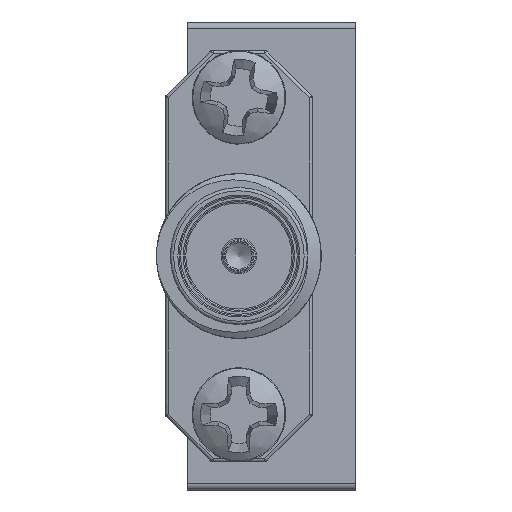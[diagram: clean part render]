
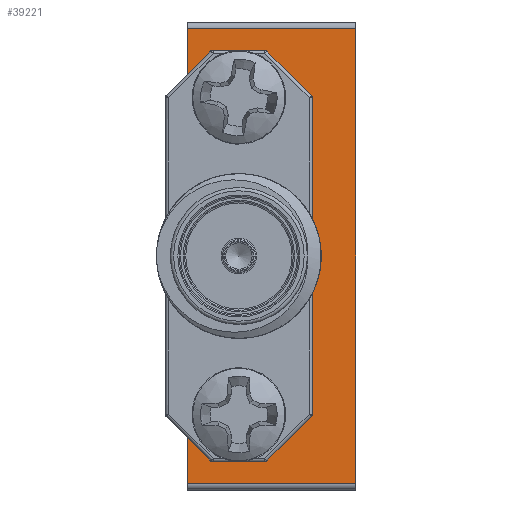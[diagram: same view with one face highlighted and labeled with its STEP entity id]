
A CAD part, left-side view. The second image highlights one B-rep face of the part: STEP entity #39221.
In plain terms, the highlighted planar face has unit normal (-1, 0, 0).
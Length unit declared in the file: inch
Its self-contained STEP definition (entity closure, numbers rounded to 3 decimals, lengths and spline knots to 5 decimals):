
#157 = VERTEX_POINT ( 'NONE', #46705 ) ;
#723 = ORIENTED_EDGE ( 'NONE', *, *, #46774, .F. ) ;
#2115 = LINE ( 'NONE', #30208, #20325 ) ;
#2280 = VERTEX_POINT ( 'NONE', #42597 ) ;
#3144 = FACE_OUTER_BOUND ( 'NONE', #43195, .T. ) ;
#3970 = CARTESIAN_POINT ( 'NONE',  ( 36.42818, 39.80643, 41.74168 ) ) ;
#4634 = ORIENTED_EDGE ( 'NONE', *, *, #39764, .F. ) ;
#6376 = PLANE ( 'NONE',  #11502 ) ;
#6680 = DIRECTION ( 'NONE',  ( 0., 1., 0. ) ) ;
#6729 = EDGE_LOOP ( 'NONE', ( #723 ) ) ;
#7599 = LINE ( 'NONE', #37738, #33080 ) ;
#7965 = EDGE_CURVE ( 'NONE', #14479, #9657, #33408, .T. ) ;
#8901 = DIRECTION ( 'NONE',  ( 0., 0., 1. ) ) ;
#9657 = VERTEX_POINT ( 'NONE', #15429 ) ;
#9781 = EDGE_CURVE ( 'NONE', #22716, #157, #2115, .T. ) ;
#10119 = CARTESIAN_POINT ( 'NONE',  ( 36.42818, 39.55143, 41.74168 ) ) ;
#10651 = CARTESIAN_POINT ( 'NONE',  ( 36.42818, 39.80643, 41.04168 ) ) ;
#10832 = LINE ( 'NONE', #18960, #32460 ) ;
#11077 = DIRECTION ( 'NONE',  ( 0., 1., 0. ) ) ;
#11173 = DIRECTION ( 'NONE',  ( -1., 0., 0. ) ) ;
#11502 = AXIS2_PLACEMENT_3D ( 'NONE', #36521, #17437, #44174 ) ;
#12932 = ORIENTED_EDGE ( 'NONE', *, *, #43673, .T. ) ;
#12937 = CIRCLE ( 'NONE', #43740, 0.0525 ) ;
#13057 = DIRECTION ( 'NONE',  ( 0., 0., 1. ) ) ;
#13617 = CARTESIAN_POINT ( 'NONE',  ( 36.42818, 39.80643, 41.21468 ) ) ;
#14479 = VERTEX_POINT ( 'NONE', #24422 ) ;
#15429 = CARTESIAN_POINT ( 'NONE',  ( 36.42818, 39.80643, 41.74168 ) ) ;
#15478 = VERTEX_POINT ( 'NONE', #18419 ) ;
#16205 = DIRECTION ( 'NONE',  ( 0., 0., 1. ) ) ;
#16496 = VECTOR ( 'NONE', #45330, 39.37008 ) ;
#16845 = CARTESIAN_POINT ( 'NONE',  ( 36.42818, 39.65843, 41.57868 ) ) ;
#17437 = DIRECTION ( 'NONE',  ( 1., 0., 0. ) ) ;
#18375 = VECTOR ( 'NONE', #8901, 39.37008 ) ;
#18419 = CARTESIAN_POINT ( 'NONE',  ( 36.42818, 39.73043, 41.20818 ) ) ;
#18960 = CARTESIAN_POINT ( 'NONE',  ( 36.42818, 39.65843, 41.21468 ) ) ;
#20325 = VECTOR ( 'NONE', #41351, 39.37008 ) ;
#21502 = DIRECTION ( 'NONE',  ( 0., 0., 1. ) ) ;
#22716 = VERTEX_POINT ( 'NONE', #37171 ) ;
#22765 = VERTEX_POINT ( 'NONE', #25833 ) ;
#23349 = EDGE_CURVE ( 'NONE', #22716, #48864, #43953, .T. ) ;
#23393 = AXIS2_PLACEMENT_3D ( 'NONE', #42978, #31353, #13057 ) ;
#24143 = ORIENTED_EDGE ( 'NONE', *, *, #23349, .F. ) ;
#24422 = CARTESIAN_POINT ( 'NONE',  ( 36.42818, 39.80643, 41.57868 ) ) ;
#24630 = ORIENTED_EDGE ( 'NONE', *, *, #38301, .T. ) ;
#25171 = CARTESIAN_POINT ( 'NONE',  ( 36.42818, 39.80643, 41.04168 ) ) ;
#25385 = ORIENTED_EDGE ( 'NONE', *, *, #35028, .T. ) ;
#25644 = FACE_BOUND ( 'NONE', #28762, .T. ) ;
#25833 = CARTESIAN_POINT ( 'NONE',  ( 36.42818, 39.65843, 41.21468 ) ) ;
#26312 = DIRECTION ( 'NONE',  ( 0., 0., 1. ) ) ;
#26661 = EDGE_CURVE ( 'NONE', #15478, #15478, #35272, .T. ) ;
#27062 = LINE ( 'NONE', #16845, #47860 ) ;
#27847 = VECTOR ( 'NONE', #21502, 39.37008 ) ;
#28762 = EDGE_LOOP ( 'NONE', ( #35675 ) ) ;
#30034 = CARTESIAN_POINT ( 'NONE',  ( 36.42818, 39.65843, 41.57868 ) ) ;
#30208 = CARTESIAN_POINT ( 'NONE',  ( 36.42818, 39.80643, 41.05168 ) ) ;
#31353 = DIRECTION ( 'NONE',  ( -1., 0., 0. ) ) ;
#31711 = ORIENTED_EDGE ( 'NONE', *, *, #7965, .F. ) ;
#31950 = DIRECTION ( 'NONE',  ( 0., 0., 1. ) ) ;
#32460 = VECTOR ( 'NONE', #11077, 39.37008 ) ;
#33080 = VECTOR ( 'NONE', #16205, 39.37008 ) ;
#33408 = LINE ( 'NONE', #10651, #27847 ) ;
#33768 = CARTESIAN_POINT ( 'NONE',  ( 36.42818, 39.65843, 41.57868 ) ) ;
#34713 = LINE ( 'NONE', #30034, #16496 ) ;
#35028 = EDGE_CURVE ( 'NONE', #157, #43608, #7599, .T. ) ;
#35272 = CIRCLE ( 'NONE', #23393, 0.0525 ) ;
#35328 = EDGE_CURVE ( 'NONE', #38552, #14479, #34713, .T. ) ;
#35675 = ORIENTED_EDGE ( 'NONE', *, *, #26661, .F. ) ;
#36521 = CARTESIAN_POINT ( 'NONE',  ( 36.42818, 39.80643, 41.04168 ) ) ;
#37171 = CARTESIAN_POINT ( 'NONE',  ( 36.42818, 39.80643, 41.05168 ) ) ;
#37738 = CARTESIAN_POINT ( 'NONE',  ( 36.42818, 39.55143, 41.04168 ) ) ;
#38301 = EDGE_CURVE ( 'NONE', #43608, #9657, #44258, .T. ) ;
#38552 = VERTEX_POINT ( 'NONE', #33768 ) ;
#39033 = VECTOR ( 'NONE', #6680, 39.37008 ) ;
#39221 = ADVANCED_FACE ( 'NONE', ( #3144, #25644, #40950 ), #6376, .F. ) ;
#39764 = EDGE_CURVE ( 'NONE', #22765, #38552, #27062, .T. ) ;
#40950 = FACE_BOUND ( 'NONE', #6729, .T. ) ;
#41351 = DIRECTION ( 'NONE',  ( 0., -1., 0. ) ) ;
#42597 = CARTESIAN_POINT ( 'NONE',  ( 36.42818, 39.73043, 41.68918 ) ) ;
#42629 = ORIENTED_EDGE ( 'NONE', *, *, #9781, .T. ) ;
#42978 = CARTESIAN_POINT ( 'NONE',  ( 36.42818, 39.73043, 41.15568 ) ) ;
#43195 = EDGE_LOOP ( 'NONE', ( #25385, #24630, #31711, #46722, #4634, #12932, #24143, #42629 ) ) ;
#43608 = VERTEX_POINT ( 'NONE', #10119 ) ;
#43673 = EDGE_CURVE ( 'NONE', #22765, #48864, #10832, .T. ) ;
#43740 = AXIS2_PLACEMENT_3D ( 'NONE', #45062, #11173, #26312 ) ;
#43953 = LINE ( 'NONE', #25171, #18375 ) ;
#44174 = DIRECTION ( 'NONE',  ( 0., 0., -1. ) ) ;
#44258 = LINE ( 'NONE', #3970, #39033 ) ;
#45062 = CARTESIAN_POINT ( 'NONE',  ( 36.42818, 39.73043, 41.63668 ) ) ;
#45330 = DIRECTION ( 'NONE',  ( 0., 1., 0. ) ) ;
#46705 = CARTESIAN_POINT ( 'NONE',  ( 36.42818, 39.55143, 41.05168 ) ) ;
#46722 = ORIENTED_EDGE ( 'NONE', *, *, #35328, .F. ) ;
#46774 = EDGE_CURVE ( 'NONE', #2280, #2280, #12937, .T. ) ;
#47860 = VECTOR ( 'NONE', #31950, 39.37008 ) ;
#48864 = VERTEX_POINT ( 'NONE', #13617 ) ;
